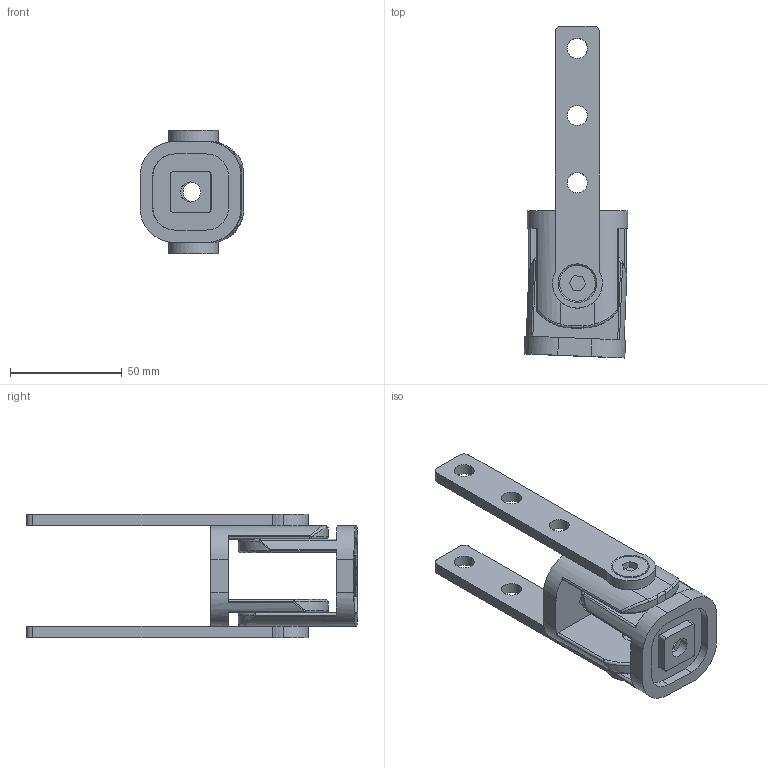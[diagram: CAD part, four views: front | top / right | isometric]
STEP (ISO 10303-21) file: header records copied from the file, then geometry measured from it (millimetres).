
FILE_DESCRIPTION (( 'STEP AP214' ), '1' );
FILE_NAME ('115.311.013.STEP', '2020-12-23T15:55:56', ( '' ), ( '' ), 'SwSTEP 2.0', 'SolidWorks 2018', '' );
FILE_SCHEMA (( 'AUTOMOTIVE_DESIGN' ));
Length unit declared in the file: millimetre
Products named in the file (5): VITI TSEI UNI 5933 INOX_0816UNI5933A2; 084.311.013_SENZA ANTIROTAZIONE; 115.311.013; 115.311.013.A; 084.311.013-1
Assembly tree (7 placements, depth 3):
  115.311.013
    115.311.013.A  x2
    084.311.013_SENZA ANTIROTAZIONE
      084.311.013-1  x2
    VITI TSEI UNI 5933 INOX_0816UNI5933A2  x2
Bounding box: 46.27 x 148.37 x 55 mm (x, y, z)
Volume: 80575.5 mm3; surface area: 40484.7 mm2
Topology: 6 solids, 6 shells, 250 faces, 620 edges, 376 vertices
Faces by surface type: cylinder 102, plane 88, sphere 20, cone 16, torus 16, bspline 8
Entity records: 4102 total; most frequent: CARTESIAN_POINT 846, DIRECTION 698, ORIENTED_EDGE 608, EDGE_CURVE 304, AXIS2_PLACEMENT_3D 272, VERTEX_POINT 188, VECTOR 154, LINE 154
